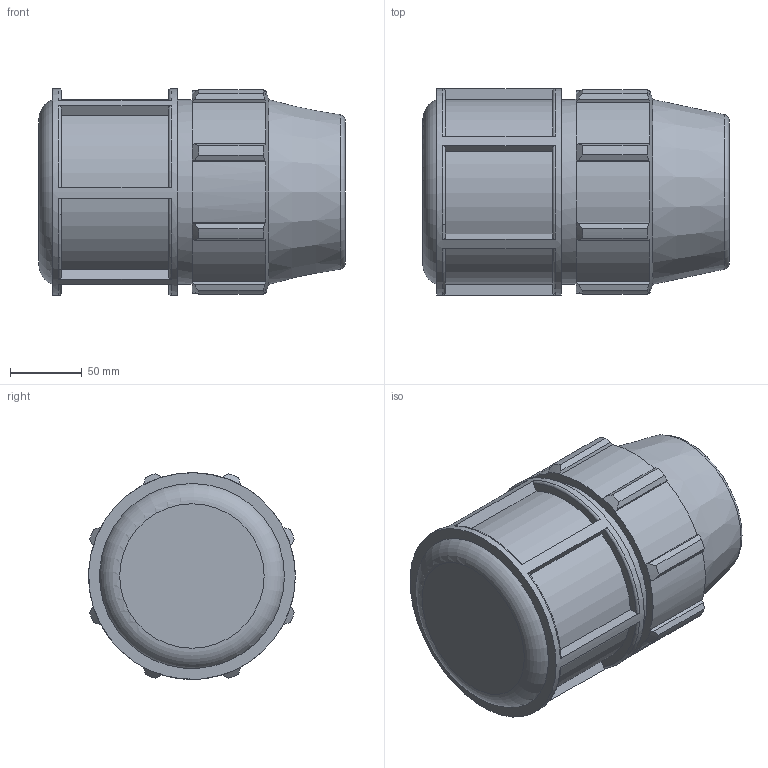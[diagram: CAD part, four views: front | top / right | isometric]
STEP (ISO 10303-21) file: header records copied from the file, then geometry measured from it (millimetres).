
FILE_DESCRIPTION(/* description */ ('PLASSON END PLUG 3'''''),/* implementation_level */ '2;1');
FILE_NAME(/* name */ 'C:\Dropbox\KIMPROJECTS-Inventor 2019\99-16-3568-Processing Inch\ASTM Compression 2021\0712M0\0712M0300.ipt.stp',/* time_stamp */ '2021-08-26T12:33:21+03:00',/* author */ ('Кирилл'),/* organization */ (''),/* preprocessor_version */ 'ST-DEVELOPER v17.2',/* originating_system */ 'Autodesk Inventor 2019',/* authorisation */ '');
FILE_SCHEMA (('AUTOMOTIVE_DESIGN { 1 0 10303 214 3 1 1 }'));
Length unit declared in the file: inch
Products named in the file (1): 0712M0300
Bounding box: 213.87 x 144.23 x 144.29 mm (x, y, z)
Volume: 1641328.1 mm3; surface area: 190474.7 mm2
Topology: 1 solids, 1 shells, 115 faces, 317 edges, 215 vertices
Faces by surface type: plane 63, cylinder 25, torus 15, cone 12
Full cylindrical faces by diameter (mm): 88.7 x1, 129.108 x1, 144.297 x1
Entity records: 4019 total; most frequent: CARTESIAN_POINT 928, ORIENTED_EDGE 634, DIRECTION 603, EDGE_CURVE 317, AXIS2_PLACEMENT_3D 226, VERTEX_POINT 215, LINE 151, VECTOR 151
